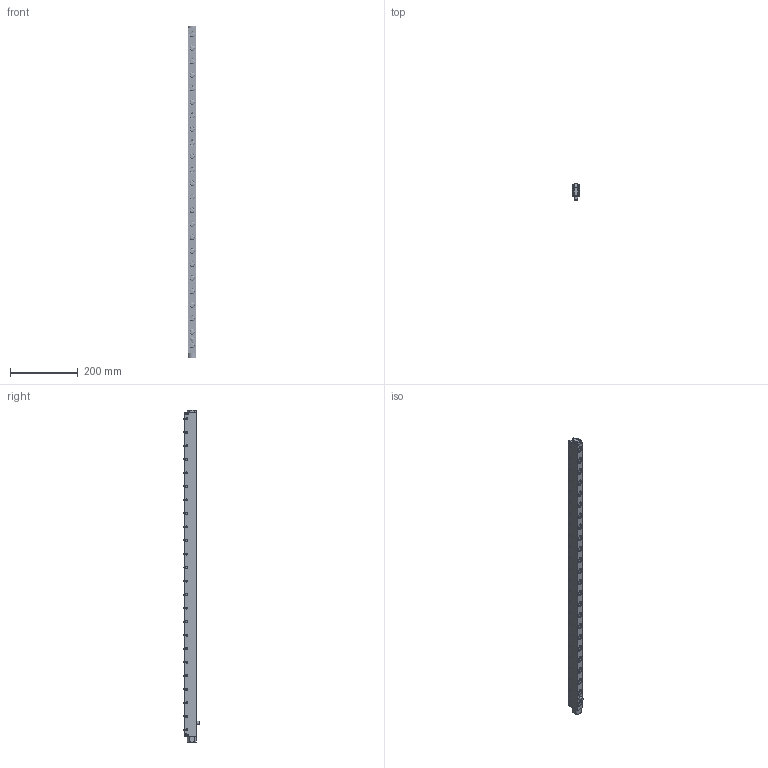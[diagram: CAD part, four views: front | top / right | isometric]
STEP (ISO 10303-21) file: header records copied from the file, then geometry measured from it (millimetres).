
FILE_DESCRIPTION(/* description */ (''),/* implementation_level */ '2;1');
FILE_NAME(/* name */ 'S:\EASCN Vault\Designs\Standard Part\DIE LIFTERS\EHR\EHR- 3D step\EHR22 - 3D step complete serie\EHR22-24.stp',/* time_stamp */ '2019-07-30T16:31:41+08:00',/* author */ ('yue.yang'),/* organization */ (''),/* preprocessor_version */ 'ST-DEVELOPER v17',/* originating_system */ 'Autodesk Inventor 2019',/* authorisation */ '');
FILE_SCHEMA (('AUTOMOTIVE_DESIGN { 1 0 10303 214 3 1 1 }'));
Products named in the file (1): EHR22-24_Shrinkwrap_1
Bounding box: 21.8 x 48.05 x 982 mm (x, y, z)
Volume: 597008.6 mm3; surface area: 228227 mm2
Topology: 11 solids, 11 shells, 1399 faces, 4179 edges, 2879 vertices
Faces by surface type: cylinder 477, plane 362, cone 268, torus 243, sphere 49
Full cylindrical faces by diameter (mm): 3 x9, 3.2 x8, 4 x8, 5 x96, 6 x33, 8.566 x1, 10 x3, 11 x24, 12.5 x48, 13.4 x24, 13.8 x24, 15.95 x48, 16 x51
Entity records: 53152 total; most frequent: CARTESIAN_POINT 11947, DIRECTION 9170, ORIENTED_EDGE 8298, EDGE_CURVE 4149, AXIS2_PLACEMENT_3D 4086, VERTEX_POINT 2881, CIRCLE 2686, EDGE_LOOP 1696
